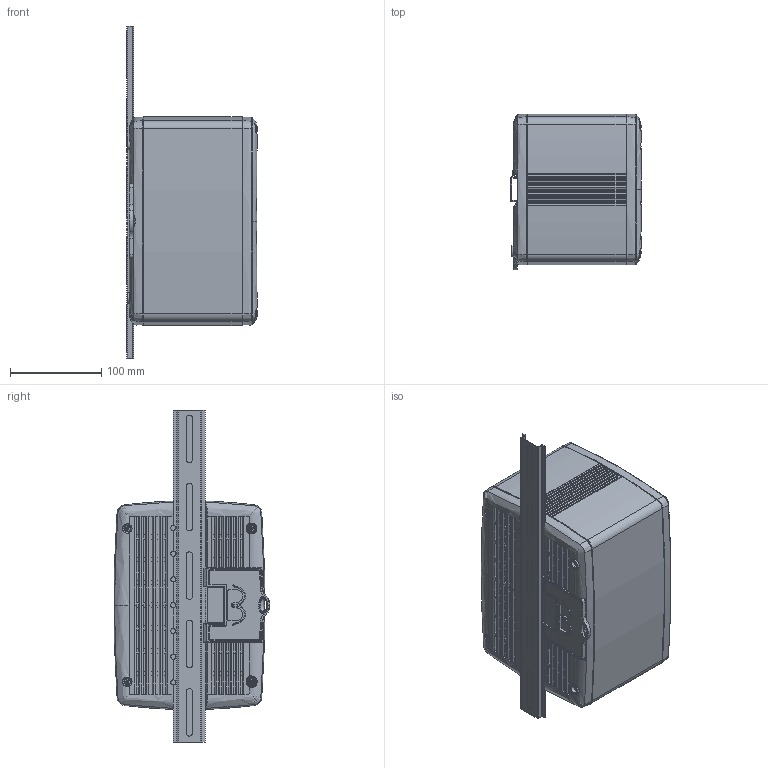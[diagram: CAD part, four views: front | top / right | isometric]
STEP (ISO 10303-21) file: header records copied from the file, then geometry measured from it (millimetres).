
FILE_DESCRIPTION (( 'STEP AP214' ), '1' );
FILE_NAME ('G4-RM.STEP', '2021-06-02T14:08:32', ( '' ), ( '' ), 'SwSTEP 2.0', 'SolidWorks 2021', '' );
FILE_SCHEMA (( 'AUTOMOTIVE_DESIGN' ));
Length unit declared in the file: millimetre
Products named in the file (9): G4-RM; G4-Din RailBack Assy; G4-DinRail Sleeve_Din Rail; Wiberger-din912_m4x16; DIN Rail-Proflile; G4-DinRail Latch; G4-DinRail Front Panel_DR-Din Rail; G4-RM Back Panel front; G4-DinRail Back Panel_DR-Din Rail
Assembly tree (15 placements, depth 3):
  G4-RM
    G4-DinRail Sleeve_Din Rail
    G4-Din RailBack Assy
      G4-DinRail Back Panel_DR-Din Rail
      G4-DinRail Latch
      DIN Rail-Proflile
    G4-DinRail Front Panel_DR-Din Rail
    G4-RM Back Panel front
    Wiberger-din912_m4x16  x8
Bounding box: 143.25 x 170.91 x 364 mm (x, y, z)
Volume: 581105.3 mm3; surface area: 434274.4 mm2
Topology: 14 solids, 14 shells, 1862 faces, 5016 edges, 3133 vertices
Faces by surface type: plane 1008, cylinder 326, cone 309, bspline 181, torus 38
Entity records: 92607 total; most frequent: CARTESIAN_POINT 51044, ORIENTED_EDGE 9258, DIRECTION 7504, EDGE_CURVE 4629, VERTEX_POINT 2944, LINE 2622, VECTOR 2622, AXIS2_PLACEMENT_3D 2441
